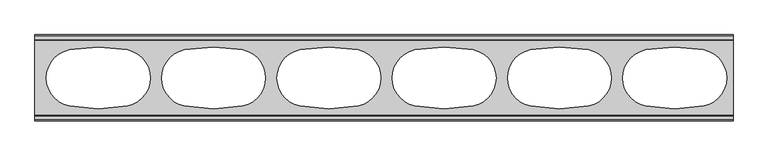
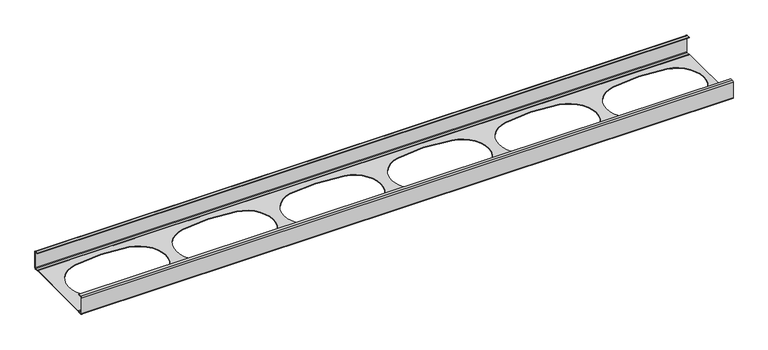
"""IFC4 building model written with IfcOpenShell, lengths in millimetres: proxy geometry, afs-LW-Track-162 : afs-LW-Track-162."""

from ifc_helpers import new_model, si_unit, frame, origin, place, context, project, spatial, polyline, circle_curve, source, transform, mapped, element, save
from ifc_brep_helpers import plane_surface, cylinder_surface, revolved_surface, advanced_brep


def generic_models_bebb3639(model_context):
    return source(origin(), model_context, "Body", "AdvancedBrep", [
        advanced_brep(
        [(0.0, 75.0, 32.75), (0.0, 75.0, 2.25), (0.0, 72.75, 0.0), (0.0, 67.75, 0.0), (0.0, 66.0632084, 0.760962), (0.0, 65.0795419, 1.2), (0.0, -65.0795419, 1.2), (0.0, -66.0632084, 0.760962), (0.0, -67.75, 0.0), (0.0, -72.75, 0.0), (0.0, -75.0, 2.25), (0.0, -75.0, 32.75), (0.0, -72.75, 35.0), (0.0, -66.75, 35.0), (0.0, -66.75, 34.0), (0.0, -72.75, 34.0), (0.0, -74.0, 32.75), (0.0, -74.0, 2.25), (0.0, -72.75, 1.0), (0.0, -67.75, 1.0), (0.0, -66.819723, 1.4150841), (0.0, -65.0795419, 2.2), (0.0, 65.0795419, 2.2), (0.0, 66.819723, 1.4150841), (0.0, 67.75, 1.0), (0.0, 72.75, 1.0), (0.0, 74.0, 2.25), (0.0, 74.0, 32.75), (0.0, 72.75, 34.0), (0.0, 66.75, 34.0), (0.0, 66.75, 35.0), (0.0, 72.75, 35.0), (1211.3251938, 75.0, 2.25), (1211.3251938, 75.0, 32.75), (1211.3251938, 72.75, 35.0), (1211.3251938, 66.75, 35.0), (1211.3251938, 66.75, 34.0), (1211.3251938, 72.75, 34.0), (1211.3251938, 74.0, 32.75), (1211.3251938, 74.0, 2.25), (1211.3251938, 72.75, 1.0), (1211.3251938, 67.75, 1.0), (1211.3251938, 66.819723, 1.4150841), (1211.3251938, 65.0795419, 2.2), (1211.3251938, -65.0795419, 2.2), (1211.3251938, -66.819723, 1.4150841), (1211.3251938, -67.75, 1.0), (1211.3251938, -72.75, 1.0), (1211.3251938, -74.0, 2.25), (1211.3251938, -74.0, 32.75), (1211.3251938, -72.75, 34.0), (1211.3251938, -66.75, 34.0), (1211.3251938, -66.75, 35.0), (1211.3251938, -72.75, 35.0), (1211.3251938, -75.0, 32.75), (1211.3251938, -75.0, 2.25), (1211.3251938, -72.75, 0.0), (1211.3251938, -67.75, 0.0), (1211.3251938, -66.0632084, 0.760962), (1211.3251938, -65.0795419, 1.2), (1211.3251938, 65.0795419, 1.2), (1211.3251938, 66.0632084, 0.760962), (1211.3251938, 67.75, 0.0), (1211.3251938, 72.75, 0.0), (1060.0990099, -49.009901, 1.2), (1159.9009901, -49.009901, 1.2), (1159.9009901, 49.009901, 1.2), (1060.0990099, 49.009901, 1.2), (260.0990099, -49.009901, 1.2), (359.9009901, -49.009901, 1.2), (359.9009901, 49.009901, 1.2), (260.0990099, 49.009901, 1.2), (460.0990099, -49.009901, 1.2), (559.9009901, -49.009901, 1.2), (559.9009901, 49.009901, 1.2), (460.0990099, 49.009901, 1.2), (660.0990099, -49.009901, 1.2), (759.9009901, -49.009901, 1.2), (759.9009901, 49.009901, 1.2), (660.0990099, 49.009901, 1.2), (860.0990099, -49.009901, 1.2), (959.9009901, -49.009901, 1.2), (959.9009901, 49.009901, 1.2), (860.0990099, 49.009901, 1.2), (60.0990099, -49.009901, 1.2), (159.9009901, -49.009901, 1.2), (159.9009901, 49.009901, 1.2), (60.0990099, 49.009901, 1.2), (1159.9009901, -49.009901, 2.2), (1060.0990099, -49.009901, 2.2), (1060.0990099, 49.009901, 2.2), (1159.9009901, 49.009901, 2.2), (359.9009901, -49.009901, 2.2), (260.0990099, -49.009901, 2.2), (260.0990099, 49.009901, 2.2), (359.9009901, 49.009901, 2.2), (559.9009901, -49.009901, 2.2), (460.0990099, -49.009901, 2.2), (460.0990099, 49.009901, 2.2), (559.9009901, 49.009901, 2.2), (759.9009901, -49.009901, 2.2), (660.0990099, -49.009901, 2.2), (660.0990099, 49.009901, 2.2), (759.9009901, 49.009901, 2.2), (959.9009901, -49.009901, 2.2), (860.0990099, -49.009901, 2.2), (860.0990099, 49.009901, 2.2), (959.9009901, 49.009901, 2.2), (159.9009901, -49.009901, 2.2), (60.0990099, -49.009901, 2.2), (60.0990099, 49.009901, 2.2), (159.9009901, 49.009901, 2.2)],
        [
            (0, 1),
            (1, 2, circle_curve(frame((0.0, 72.75, 2.25), z_axis=(-1.0, 0.0, 0.0), x_axis=(0.0, 1.0, 0.0)), 2.25)),
            (2, 3),
            (3, 4, circle_curve(frame((0.0, 67.75, 2.25), z_axis=(-1.0, 0.0, 0.0), x_axis=(0.0, 1.0, 0.0)), 2.25)),
            (4, 5, circle_curve(frame((0.0, 65.0795419, -0.1214736), z_axis=(1.0, 0.0, 0.0), x_axis=(0.0, 1.0, 0.0)), 1.3214736)),
            (5, 6),
            (6, 7, circle_curve(frame((0.0, -65.0795419, -0.1214736), z_axis=(1.0, 0.0, 0.0), x_axis=(0.0, 1.0, 0.0)), 1.3214736)),
            (7, 8, circle_curve(frame((0.0, -67.75, 2.25), z_axis=(-1.0, 0.0, 0.0), x_axis=(0.0, 1.0, 0.0)), 2.25)),
            (8, 9),
            (9, 10, circle_curve(frame((0.0, -72.75, 2.25), z_axis=(-1.0, 0.0, 0.0), x_axis=(0.0, 1.0, 0.0)), 2.25)),
            (10, 11),
            (11, 12, circle_curve(frame((0.0, -72.75, 32.75), z_axis=(-1.0, 0.0, 0.0), x_axis=(0.0, 1.0, 0.0)), 2.25)),
            (12, 13),
            (13, 14),
            (14, 15),
            (15, 16, circle_curve(frame((0.0, -72.75, 32.75), z_axis=(1.0, 0.0, 0.0), x_axis=(0.0, 1.0, 0.0)), 1.25)),
            (16, 17),
            (17, 18, circle_curve(frame((0.0, -72.75, 2.25), z_axis=(1.0, 0.0, 0.0), x_axis=(0.0, 1.0, 0.0)), 1.25)),
            (18, 19),
            (19, 20, circle_curve(frame((0.0, -67.75, 2.25), z_axis=(1.0, 0.0, 0.0), x_axis=(0.0, 1.0, 0.0)), 1.25)),
            (20, 21, circle_curve(frame((0.0, -65.0795419, -0.1214736), z_axis=(-1.0, 0.0, 0.0), x_axis=(0.0, 1.0, 0.0)), 2.3214736)),
            (21, 22),
            (22, 23, circle_curve(frame((0.0, 65.0795419, -0.1214736), z_axis=(-1.0, 0.0, 0.0), x_axis=(0.0, 1.0, 0.0)), 2.3214736)),
            (23, 24, circle_curve(frame((0.0, 67.75, 2.25), z_axis=(1.0, 0.0, 0.0), x_axis=(0.0, 1.0, 0.0)), 1.25)),
            (24, 25),
            (25, 26, circle_curve(frame((0.0, 72.75, 2.25), z_axis=(1.0, 0.0, 0.0), x_axis=(0.0, 1.0, 0.0)), 1.25)),
            (26, 27),
            (27, 28, circle_curve(frame((0.0, 72.75, 32.75), z_axis=(1.0, 0.0, 0.0), x_axis=(0.0, 1.0, 0.0)), 1.25)),
            (28, 29),
            (29, 30),
            (30, 31),
            (31, 0, circle_curve(frame((0.0, 72.75, 32.75), z_axis=(-1.0, 0.0, 0.0), x_axis=(0.0, 1.0, 0.0)), 2.25)),
            (32, 33),
            (33, 34, circle_curve(frame((1211.3251938, 72.75, 32.75), z_axis=(1.0, 0.0, 0.0), x_axis=(0.0, 1.0, 0.0)), 2.25)),
            (34, 35),
            (35, 36),
            (36, 37),
            (37, 38, circle_curve(frame((1211.3251938, 72.75, 32.75), z_axis=(-1.0, 0.0, 0.0), x_axis=(0.0, 1.0, 0.0)), 1.25)),
            (38, 39),
            (39, 40, circle_curve(frame((1211.3251938, 72.75, 2.25), z_axis=(-1.0, 0.0, 0.0), x_axis=(0.0, 1.0, 0.0)), 1.25)),
            (40, 41),
            (41, 42, circle_curve(frame((1211.3251938, 67.75, 2.25), z_axis=(-1.0, 0.0, 0.0), x_axis=(0.0, 1.0, 0.0)), 1.25)),
            (42, 43, circle_curve(frame((1211.3251938, 65.0795419, -0.1214736), z_axis=(1.0, 0.0, 0.0), x_axis=(0.0, 1.0, 0.0)), 2.3214736)),
            (43, 44),
            (44, 45, circle_curve(frame((1211.3251938, -65.0795419, -0.1214736), z_axis=(1.0, 0.0, 0.0), x_axis=(0.0, 1.0, 0.0)), 2.3214736)),
            (45, 46, circle_curve(frame((1211.3251938, -67.75, 2.25), z_axis=(-1.0, 0.0, 0.0), x_axis=(0.0, 1.0, 0.0)), 1.25)),
            (46, 47),
            (47, 48, circle_curve(frame((1211.3251938, -72.75, 2.25), z_axis=(-1.0, 0.0, 0.0), x_axis=(0.0, 1.0, 0.0)), 1.25)),
            (48, 49),
            (49, 50, circle_curve(frame((1211.3251938, -72.75, 32.75), z_axis=(-1.0, 0.0, 0.0), x_axis=(0.0, 1.0, 0.0)), 1.25)),
            (50, 51),
            (51, 52),
            (52, 53),
            (53, 54, circle_curve(frame((1211.3251938, -72.75, 32.75), z_axis=(1.0, 0.0, 0.0), x_axis=(0.0, 1.0, 0.0)), 2.25)),
            (54, 55),
            (55, 56, circle_curve(frame((1211.3251938, -72.75, 2.25), z_axis=(1.0, 0.0, 0.0), x_axis=(0.0, 1.0, 0.0)), 2.25)),
            (56, 57),
            (57, 58, circle_curve(frame((1211.3251938, -67.75, 2.25), z_axis=(1.0, 0.0, 0.0), x_axis=(0.0, 1.0, 0.0)), 2.25)),
            (58, 59, circle_curve(frame((1211.3251938, -65.0795419, -0.1214736), z_axis=(-1.0, 0.0, 0.0), x_axis=(0.0, 1.0, 0.0)), 1.3214736)),
            (59, 60),
            (60, 61, circle_curve(frame((1211.3251938, 65.0795419, -0.1214736), z_axis=(-1.0, 0.0, 0.0), x_axis=(0.0, 1.0, 0.0)), 1.3214736)),
            (61, 62, circle_curve(frame((1211.3251938, 67.75, 2.25), z_axis=(1.0, 0.0, 0.0), x_axis=(0.0, 1.0, 0.0)), 2.25)),
            (62, 63),
            (63, 32, circle_curve(frame((1211.3251938, 72.75, 2.25), z_axis=(1.0, 0.0, 0.0), x_axis=(0.0, 1.0, 0.0)), 2.25)),
            (0, 33),
            (32, 1),
            (63, 2),
            (62, 3),
            (61, 4),
            (60, 5),
            (59, 6),
            (64, 65, circle_curve(frame((1110.0, 198.0, 1.2), z_axis=(0.0, 0.0, 1.0), x_axis=(0.0, -1.0, 0.0)), 252.0)),
            (65, 66, circle_curve(frame((1150.0, 0.0, 1.2), z_axis=(0.0, 0.0, 1.0), x_axis=(0.0, 1.0, 0.0)), 50.0)),
            (66, 67, circle_curve(frame((1110.0, -198.0, 1.2), z_axis=(0.0, 0.0, 1.0), x_axis=(0.0, 1.0, 0.0)), 252.0)),
            (67, 64, circle_curve(frame((1070.0, 0.0, 1.2), z_axis=(0.0, 0.0, 1.0), x_axis=(0.0, 1.0, 0.0)), 50.0)),
            (68, 69, circle_curve(frame((310.0, 198.0, 1.2), z_axis=(0.0, 0.0, 1.0), x_axis=(0.0, -1.0, 0.0)), 252.0)),
            (69, 70, circle_curve(frame((350.0, 0.0, 1.2), z_axis=(0.0, 0.0, 1.0), x_axis=(0.0, 1.0, 0.0)), 50.0)),
            (70, 71, circle_curve(frame((310.0, -198.0, 1.2), z_axis=(0.0, 0.0, 1.0), x_axis=(0.0, 1.0, 0.0)), 252.0)),
            (71, 68, circle_curve(frame((270.0, 0.0, 1.2), z_axis=(0.0, 0.0, 1.0), x_axis=(0.0, 1.0, 0.0)), 50.0)),
            (72, 73, circle_curve(frame((510.0, 198.0, 1.2), z_axis=(0.0, 0.0, 1.0), x_axis=(0.0, -1.0, 0.0)), 252.0)),
            (73, 74, circle_curve(frame((550.0, 0.0, 1.2), z_axis=(0.0, 0.0, 1.0), x_axis=(0.0, 1.0, 0.0)), 50.0)),
            (74, 75, circle_curve(frame((510.0, -198.0, 1.2), z_axis=(0.0, 0.0, 1.0), x_axis=(0.0, 1.0, 0.0)), 252.0)),
            (75, 72, circle_curve(frame((470.0, 0.0, 1.2), z_axis=(0.0, 0.0, 1.0), x_axis=(0.0, 1.0, 0.0)), 50.0)),
            (76, 77, circle_curve(frame((710.0, 198.0, 1.2), z_axis=(0.0, 0.0, 1.0), x_axis=(0.0, -1.0, 0.0)), 252.0)),
            (77, 78, circle_curve(frame((750.0, 0.0, 1.2), z_axis=(0.0, 0.0, 1.0), x_axis=(0.0, 1.0, 0.0)), 50.0)),
            (78, 79, circle_curve(frame((710.0, -198.0, 1.2), z_axis=(0.0, 0.0, 1.0), x_axis=(0.0, 1.0, 0.0)), 252.0)),
            (79, 76, circle_curve(frame((670.0, 0.0, 1.2), z_axis=(0.0, 0.0, 1.0), x_axis=(0.0, 1.0, 0.0)), 50.0)),
            (80, 81, circle_curve(frame((910.0, 198.0, 1.2), z_axis=(0.0, 0.0, 1.0), x_axis=(0.0, -1.0, 0.0)), 252.0)),
            (81, 82, circle_curve(frame((950.0, 0.0, 1.2), z_axis=(0.0, 0.0, 1.0), x_axis=(0.0, 1.0, 0.0)), 50.0)),
            (82, 83, circle_curve(frame((910.0, -198.0, 1.2), z_axis=(0.0, 0.0, 1.0), x_axis=(0.0, 1.0, 0.0)), 252.0)),
            (83, 80, circle_curve(frame((870.0, 0.0, 1.2), z_axis=(0.0, 0.0, 1.0), x_axis=(0.0, 1.0, 0.0)), 50.0)),
            (84, 85, circle_curve(frame((110.0, 198.0, 1.2), z_axis=(0.0, 0.0, 1.0), x_axis=(0.0, -1.0, 0.0)), 252.0)),
            (85, 86, circle_curve(frame((150.0, 0.0, 1.2), z_axis=(0.0, 0.0, 1.0), x_axis=(0.0, 1.0, 0.0)), 50.0)),
            (86, 87, circle_curve(frame((110.0, -198.0, 1.2), z_axis=(0.0, 0.0, 1.0), x_axis=(0.0, 1.0, 0.0)), 252.0)),
            (87, 84, circle_curve(frame((70.0, 0.0, 1.2), z_axis=(0.0, 0.0, 1.0), x_axis=(0.0, 1.0, 0.0)), 50.0)),
            (58, 7),
            (57, 8),
            (56, 9),
            (55, 10),
            (54, 11),
            (53, 12),
            (52, 13),
            (51, 14),
            (50, 15),
            (49, 16),
            (48, 17),
            (47, 18),
            (46, 19),
            (45, 20),
            (44, 21),
            (43, 22),
            (88, 89, circle_curve(frame((1110.0, 198.0, 2.2), z_axis=(0.0, 0.0, -1.0), x_axis=(0.0, -1.0, 0.0)), 252.0)),
            (89, 90, circle_curve(frame((1070.0, 0.0, 2.2), z_axis=(0.0, 0.0, -1.0), x_axis=(0.0, 1.0, 0.0)), 50.0)),
            (90, 91, circle_curve(frame((1110.0, -198.0, 2.2), z_axis=(0.0, 0.0, -1.0), x_axis=(0.0, 1.0, 0.0)), 252.0)),
            (91, 88, circle_curve(frame((1150.0, 0.0, 2.2), z_axis=(0.0, 0.0, -1.0), x_axis=(0.0, 1.0, 0.0)), 50.0)),
            (92, 93, circle_curve(frame((310.0, 198.0, 2.2), z_axis=(0.0, 0.0, -1.0), x_axis=(0.0, -1.0, 0.0)), 252.0)),
            (93, 94, circle_curve(frame((270.0, 0.0, 2.2), z_axis=(0.0, 0.0, -1.0), x_axis=(0.0, 1.0, 0.0)), 50.0)),
            (94, 95, circle_curve(frame((310.0, -198.0, 2.2), z_axis=(0.0, 0.0, -1.0), x_axis=(0.0, 1.0, 0.0)), 252.0)),
            (95, 92, circle_curve(frame((350.0, 0.0, 2.2), z_axis=(0.0, 0.0, -1.0), x_axis=(0.0, 1.0, 0.0)), 50.0)),
            (96, 97, circle_curve(frame((510.0, 198.0, 2.2), z_axis=(0.0, 0.0, -1.0), x_axis=(0.0, -1.0, 0.0)), 252.0)),
            (97, 98, circle_curve(frame((470.0, 0.0, 2.2), z_axis=(0.0, 0.0, -1.0), x_axis=(0.0, 1.0, 0.0)), 50.0)),
            (98, 99, circle_curve(frame((510.0, -198.0, 2.2), z_axis=(0.0, 0.0, -1.0), x_axis=(0.0, 1.0, 0.0)), 252.0)),
            (99, 96, circle_curve(frame((550.0, 0.0, 2.2), z_axis=(0.0, 0.0, -1.0), x_axis=(0.0, 1.0, 0.0)), 50.0)),
            (100, 101, circle_curve(frame((710.0, 198.0, 2.2), z_axis=(0.0, 0.0, -1.0), x_axis=(0.0, -1.0, 0.0)), 252.0)),
            (101, 102, circle_curve(frame((670.0, 0.0, 2.2), z_axis=(0.0, 0.0, -1.0), x_axis=(0.0, 1.0, 0.0)), 50.0)),
            (102, 103, circle_curve(frame((710.0, -198.0, 2.2), z_axis=(0.0, 0.0, -1.0), x_axis=(0.0, 1.0, 0.0)), 252.0)),
            (103, 100, circle_curve(frame((750.0, 0.0, 2.2), z_axis=(0.0, 0.0, -1.0), x_axis=(0.0, 1.0, 0.0)), 50.0)),
            (104, 105, circle_curve(frame((910.0, 198.0, 2.2), z_axis=(0.0, 0.0, -1.0), x_axis=(0.0, -1.0, 0.0)), 252.0)),
            (105, 106, circle_curve(frame((870.0, 0.0, 2.2), z_axis=(0.0, 0.0, -1.0), x_axis=(0.0, 1.0, 0.0)), 50.0)),
            (106, 107, circle_curve(frame((910.0, -198.0, 2.2), z_axis=(0.0, 0.0, -1.0), x_axis=(0.0, 1.0, 0.0)), 252.0)),
            (107, 104, circle_curve(frame((950.0, 0.0, 2.2), z_axis=(0.0, 0.0, -1.0), x_axis=(0.0, 1.0, 0.0)), 50.0)),
            (108, 109, circle_curve(frame((110.0, 198.0, 2.2), z_axis=(0.0, 0.0, -1.0), x_axis=(0.0, -1.0, 0.0)), 252.0)),
            (109, 110, circle_curve(frame((70.0, 0.0, 2.2), z_axis=(0.0, 0.0, -1.0), x_axis=(0.0, 1.0, 0.0)), 50.0)),
            (110, 111, circle_curve(frame((110.0, -198.0, 2.2), z_axis=(0.0, 0.0, -1.0), x_axis=(0.0, 1.0, 0.0)), 252.0)),
            (111, 108, circle_curve(frame((150.0, 0.0, 2.2), z_axis=(0.0, 0.0, -1.0), x_axis=(0.0, 1.0, 0.0)), 50.0)),
            (42, 23),
            (41, 24),
            (40, 25),
            (39, 26),
            (38, 27),
            (37, 28),
            (36, 29),
            (35, 30),
            (34, 31),
            (92, 69),
            (68, 93),
            (95, 70),
            (94, 71),
            (72, 97),
            (96, 73),
            (99, 74),
            (98, 75),
            (76, 101),
            (100, 77),
            (103, 78),
            (102, 79),
            (80, 105),
            (104, 81),
            (107, 82),
            (106, 83),
            (64, 89),
            (88, 65),
            (91, 66),
            (90, 67),
            (84, 109),
            (108, 85),
            (111, 86),
            (110, 87),
        ],
        [
            plane_surface(frame((0.0, 0.0, 0.0), z_axis=(-1.0, 0.0, 0.0), x_axis=(0.0, 0.0, 1.0))),
            plane_surface(frame((1211.3251938, 0.0, 0.0), z_axis=(1.0, 0.0, 0.0), x_axis=(0.0, 0.0, 1.0))),
            plane_surface(frame((0.0, 75.0, 32.75), z_axis=(0.0, 1.0, 0.0), x_axis=(1.0, 0.0, 0.0))),
            cylinder_surface(frame((0.0, 72.75, 2.25), z_axis=(-1.0, 0.0, 0.0), x_axis=(0.0, 1.0, 0.0)), 2.25),
            plane_surface(frame((0.0, 72.75, 0.0), z_axis=(0.0, 0.0, -1.0), x_axis=(1.0, 0.0, 0.0))),
            cylinder_surface(frame((0.0, 67.75, 2.25), z_axis=(-1.0, 0.0, 0.0), x_axis=(0.0, 1.0, 0.0)), 2.25),
            revolved_surface(polyline([(1211.3251938, 66.4010155, -0.1214736), (0.0, 66.4010155, -0.1214736)]), (0.0, 65.0795419, -0.1214736), (1.0, 0.0, 0.0)),
            plane_surface(frame((0.0, 65.0795419, 1.2), z_axis=(0.0, 0.0, -1.0), x_axis=(1.0, 0.0, 0.0))),
            revolved_surface(polyline([(1211.3251938, -63.7580683, -0.1214736), (0.0, -63.7580683, -0.1214736)]), (0.0, -65.0795419, -0.1214736), (1.0, 0.0, 0.0)),
            cylinder_surface(frame((0.0, -67.75, 2.25), z_axis=(-1.0, 0.0, 0.0), x_axis=(0.0, 1.0, 0.0)), 2.25),
            plane_surface(frame((0.0, -67.75, 0.0), z_axis=(0.0, 0.0, -1.0), x_axis=(1.0, 0.0, 0.0))),
            cylinder_surface(frame((0.0, -72.75, 2.25), z_axis=(-1.0, 0.0, 0.0), x_axis=(0.0, 1.0, 0.0)), 2.25),
            plane_surface(frame((0.0, -75.0, 2.25), z_axis=(0.0, -1.0, 0.0), x_axis=(1.0, 0.0, 0.0))),
            cylinder_surface(frame((0.0, -72.75, 32.75), z_axis=(-1.0, 0.0, 0.0), x_axis=(0.0, 1.0, 0.0)), 2.25),
            plane_surface(frame((0.0, -72.75, 35.0), z_axis=(0.0, 0.0, 1.0), x_axis=(1.0, 0.0, 0.0))),
            plane_surface(frame((0.0, -66.75, 35.0), z_axis=(0.0, 1.0, 0.0), x_axis=(1.0, 0.0, 0.0))),
            plane_surface(frame((0.0, -66.75, 34.0), z_axis=(0.0, 0.0, -1.0), x_axis=(1.0, 0.0, 0.0))),
            revolved_surface(polyline([(1211.3251938, -71.5, 32.75), (0.0, -71.5, 32.75)]), (0.0, -72.75, 32.75), (1.0, 0.0, 0.0)),
            plane_surface(frame((0.0, -74.0, 32.75), z_axis=(0.0, 1.0, 0.0), x_axis=(1.0, 0.0, 0.0))),
            revolved_surface(polyline([(1211.3251938, -71.5, 2.25), (0.0, -71.5, 2.25)]), (0.0, -72.75, 2.25), (1.0, 0.0, 0.0)),
            plane_surface(frame((0.0, -72.75, 1.0), z_axis=(0.0, 0.0, 1.0), x_axis=(1.0, 0.0, 0.0))),
            revolved_surface(polyline([(1211.3251938, -66.5, 2.25), (0.0, -66.5, 2.25)]), (0.0, -67.75, 2.25), (1.0, 0.0, 0.0)),
            cylinder_surface(frame((0.0, -65.0795419, -0.1214736), z_axis=(-1.0, 0.0, 0.0), x_axis=(0.0, 1.0, 0.0)), 2.3214736),
            plane_surface(frame((0.0, -65.0795419, 2.2), z_axis=(0.0, 0.0, 1.0), x_axis=(1.0, 0.0, 0.0))),
            cylinder_surface(frame((0.0, 65.0795419, -0.1214736), z_axis=(-1.0, 0.0, 0.0), x_axis=(0.0, 1.0, 0.0)), 2.3214736),
            revolved_surface(polyline([(1211.3251938, 69.0, 2.25), (0.0, 69.0, 2.25)]), (0.0, 67.75, 2.25), (1.0, 0.0, 0.0)),
            plane_surface(frame((0.0, 67.75, 1.0), z_axis=(0.0, 0.0, 1.0), x_axis=(1.0, 0.0, 0.0))),
            revolved_surface(polyline([(1211.3251938, 74.0, 2.25), (0.0, 74.0, 2.25)]), (0.0, 72.75, 2.25), (1.0, 0.0, 0.0)),
            plane_surface(frame((0.0, 74.0, 2.25), z_axis=(0.0, -1.0, 0.0), x_axis=(1.0, 0.0, 0.0))),
            revolved_surface(polyline([(1211.3251938, 74.0, 32.75), (0.0, 74.0, 32.75)]), (0.0, 72.75, 32.75), (1.0, 0.0, 0.0)),
            plane_surface(frame((0.0, 72.75, 34.0), z_axis=(0.0, 0.0, -1.0), x_axis=(1.0, 0.0, 0.0))),
            plane_surface(frame((0.0, 66.75, 34.0), z_axis=(0.0, -1.0, 0.0), x_axis=(1.0, 0.0, 0.0))),
            plane_surface(frame((0.0, 66.75, 35.0), z_axis=(0.0, 0.0, 1.0), x_axis=(1.0, 0.0, 0.0))),
            cylinder_surface(frame((0.0, 72.75, 32.75), z_axis=(-1.0, 0.0, 0.0), x_axis=(0.0, 1.0, 0.0)), 2.25),
            revolved_surface(polyline([(310.0, -54.0, 2.200000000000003), (310.0, -54.0, 1.2000000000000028)]), (310.0, 198.0, -98.8), (0.0, 0.0, 1.0)),
            revolved_surface(polyline([(350.0, 50.0, 2.200000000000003), (350.0, 50.0, 1.2000000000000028)]), (350.0, 0.0, -98.8), (0.0, 0.0, 1.0)),
            revolved_surface(polyline([(310.0, 54.0, 2.200000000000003), (310.0, 54.0, 1.2000000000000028)]), (310.0, -198.0, -98.8), (0.0, 0.0, 1.0)),
            revolved_surface(polyline([(270.0, 50.0, 2.200000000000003), (270.0, 50.0, 1.2000000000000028)]), (270.0, 0.0, -98.8), (0.0, 0.0, 1.0)),
            revolved_surface(polyline([(510.0, -54.0, 2.200000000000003), (510.0, -54.0, 1.2000000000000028)]), (510.0, 198.0, -98.8), (0.0, 0.0, 1.0)),
            revolved_surface(polyline([(550.0, 50.0, 2.200000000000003), (550.0, 50.0, 1.2000000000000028)]), (550.0, 0.0, -98.8), (0.0, 0.0, 1.0)),
            revolved_surface(polyline([(510.0, 54.0, 2.200000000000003), (510.0, 54.0, 1.2000000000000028)]), (510.0, -198.0, -98.8), (0.0, 0.0, 1.0)),
            revolved_surface(polyline([(470.0, 50.0, 2.200000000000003), (470.0, 50.0, 1.2000000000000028)]), (470.0, 0.0, -98.8), (0.0, 0.0, 1.0)),
            revolved_surface(polyline([(710.0, -54.0, 2.200000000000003), (710.0, -54.0, 1.2000000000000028)]), (710.0, 198.0, -98.8), (0.0, 0.0, 1.0)),
            revolved_surface(polyline([(750.0, 50.0, 2.200000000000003), (750.0, 50.0, 1.2000000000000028)]), (750.0, 0.0, -98.8), (0.0, 0.0, 1.0)),
            revolved_surface(polyline([(710.0, 54.0, 2.200000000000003), (710.0, 54.0, 1.2000000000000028)]), (710.0, -198.0, -98.8), (0.0, 0.0, 1.0)),
            revolved_surface(polyline([(670.0, 50.0, 2.200000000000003), (670.0, 50.0, 1.2000000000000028)]), (670.0, 0.0, -98.8), (0.0, 0.0, 1.0)),
            revolved_surface(polyline([(910.0, -54.0, 2.200000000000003), (910.0, -54.0, 1.2000000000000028)]), (910.0, 198.0, -98.8), (0.0, 0.0, 1.0)),
            revolved_surface(polyline([(950.0, 50.0, 2.200000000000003), (950.0, 50.0, 1.2000000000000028)]), (950.0, 0.0, -98.8), (0.0, 0.0, 1.0)),
            revolved_surface(polyline([(910.0, 54.0, 2.200000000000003), (910.0, 54.0, 1.2000000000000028)]), (910.0, -198.0, -98.8), (0.0, 0.0, 1.0)),
            revolved_surface(polyline([(870.0, 50.0, 2.200000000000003), (870.0, 50.0, 1.2000000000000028)]), (870.0, 0.0, -98.8), (0.0, 0.0, 1.0)),
            revolved_surface(polyline([(1110.0, -54.0, 2.200000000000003), (1110.0, -54.0, 1.2000000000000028)]), (1110.0, 198.0, -98.8), (0.0, 0.0, 1.0)),
            revolved_surface(polyline([(1150.0, 50.0, 2.200000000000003), (1150.0, 50.0, 1.2000000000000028)]), (1150.0, 0.0, -98.8), (0.0, 0.0, 1.0)),
            revolved_surface(polyline([(1110.0, 54.0, 2.200000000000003), (1110.0, 54.0, 1.2000000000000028)]), (1110.0, -198.0, -98.8), (0.0, 0.0, 1.0)),
            revolved_surface(polyline([(1070.0, 50.0, 2.200000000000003), (1070.0, 50.0, 1.2000000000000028)]), (1070.0, 0.0, -98.8), (0.0, 0.0, 1.0)),
            revolved_surface(polyline([(110.0, -54.0, 2.200000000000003), (110.0, -54.0, 1.2000000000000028)]), (110.0, 198.0, -98.8), (0.0, 0.0, 1.0)),
            revolved_surface(polyline([(150.0, 50.0, 2.200000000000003), (150.0, 50.0, 1.2000000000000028)]), (150.0, 0.0, -98.8), (0.0, 0.0, 1.0)),
            revolved_surface(polyline([(110.0, 54.0, 2.200000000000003), (110.0, 54.0, 1.2000000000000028)]), (110.0, -198.0, -98.8), (0.0, 0.0, 1.0)),
            revolved_surface(polyline([(70.0, 50.0, 2.200000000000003), (70.0, 50.0, 1.2000000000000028)]), (70.0, 0.0, -98.8), (0.0, 0.0, 1.0)),
        ],
        [
            (0, [[1, 2, 3, 4, 5, 6, 7, 8, 9, 10, 11, 12, 13, 14, 15, 16, 17, 18, 19, 20, 21, 22, 23, 24, 25, 26, 27, 28, 29, 30, 31, 32]]),
            (1, [[33, 34, 35, 36, 37, 38, 39, 40, 41, 42, 43, 44, 45, 46, 47, 48, 49, 50, 51, 52, 53, 54, 55, 56, 57, 58, 59, 60, 61, 62, 63, 64]]),
            (2, [[-1, 65, -33, 66]]),
            (3, [[-2, -66, -64, 67]]),
            (4, [[-3, -67, -63, 68]]),
            (5, [[-4, -68, -62, 69]]),
            (6, [[-5, -69, -61, 70]]),
            (7, [[-6, -70, -60, 71], [72, 73, 74, 75], [76, 77, 78, 79], [80, 81, 82, 83], [84, 85, 86, 87], [88, 89, 90, 91], [92, 93, 94, 95]]),
            (8, [[-7, -71, -59, 96]]),
            (9, [[-8, -96, -58, 97]]),
            (10, [[-9, -97, -57, 98]]),
            (11, [[-10, -98, -56, 99]]),
            (12, [[-11, -99, -55, 100]]),
            (13, [[-12, -100, -54, 101]]),
            (14, [[-13, -101, -53, 102]]),
            (15, [[-14, -102, -52, 103]]),
            (16, [[-15, -103, -51, 104]]),
            (17, [[-16, -104, -50, 105]]),
            (18, [[-17, -105, -49, 106]]),
            (19, [[-18, -106, -48, 107]]),
            (20, [[-19, -107, -47, 108]]),
            (21, [[-20, -108, -46, 109]]),
            (22, [[-21, -109, -45, 110]]),
            (23, [[-22, -110, -44, 111], [112, 113, 114, 115], [116, 117, 118, 119], [120, 121, 122, 123], [124, 125, 126, 127], [128, 129, 130, 131], [132, 133, 134, 135]]),
            (24, [[-23, -111, -43, 136]]),
            (25, [[-24, -136, -42, 137]]),
            (26, [[-25, -137, -41, 138]]),
            (27, [[-26, -138, -40, 139]]),
            (28, [[-27, -139, -39, 140]]),
            (29, [[-28, -140, -38, 141]]),
            (30, [[-29, -141, -37, 142]]),
            (31, [[-30, -142, -36, 143]]),
            (32, [[-31, -143, -35, 144]]),
            (33, [[-32, -144, -34, -65]]),
            (34, [[145, -76, 146, -116]]),
            (35, [[-145, -119, 147, -77]]),
            (36, [[148, -78, -147, -118]]),
            (37, [[-146, -79, -148, -117]]),
            (38, [[149, -120, 150, -80]]),
            (39, [[-150, -123, 151, -81]]),
            (40, [[-151, -122, 152, -82]]),
            (41, [[-149, -83, -152, -121]]),
            (42, [[153, -124, 154, -84]]),
            (43, [[-154, -127, 155, -85]]),
            (44, [[-155, -126, 156, -86]]),
            (45, [[-153, -87, -156, -125]]),
            (46, [[157, -128, 158, -88]]),
            (47, [[-158, -131, 159, -89]]),
            (48, [[-159, -130, 160, -90]]),
            (49, [[-157, -91, -160, -129]]),
            (50, [[161, -112, 162, -72]]),
            (51, [[-162, -115, 163, -73]]),
            (52, [[-163, -114, 164, -74]]),
            (53, [[-161, -75, -164, -113]]),
            (54, [[165, -132, 166, -92]]),
            (55, [[-166, -135, 167, -93]]),
            (56, [[-167, -134, 168, -94]]),
            (57, [[-165, -95, -168, -133]]),
        ],
    ),
    ])


if __name__ == "__main__":
    model = new_model("IFC4")
    model_context = context("Model", 3, world=origin())
    ifc_project = project(units=[si_unit("LENGTHUNIT", "METRE", prefix="MILLI")], contexts=[model_context])
    site = spatial("IfcSite", under=ifc_project)
    building = spatial("IfcBuilding", under=site)
    placement = place(None, origin())
    generic_models_shape = generic_models_bebb3639(model_context)
    element("IfcBuildingElementProxy", 1, Name="afs-LW-Track-162 : afs-LW-Track-162", ObjectType="afs-LW-Track-162 : afs-LW-Track-162", at=placement, inside=building, context=model_context, shape_type="MappedRepresentation", body=[
        mapped(generic_models_shape, transform((0.0, 0.0, 0.0), x_axis=(1.0, 0.0, 0.0), y_axis=(0.0, 1.0, 0.0), z_axis=(0.0, 0.0, 1.0))),
    ])
    save(model, "model.ifc")
